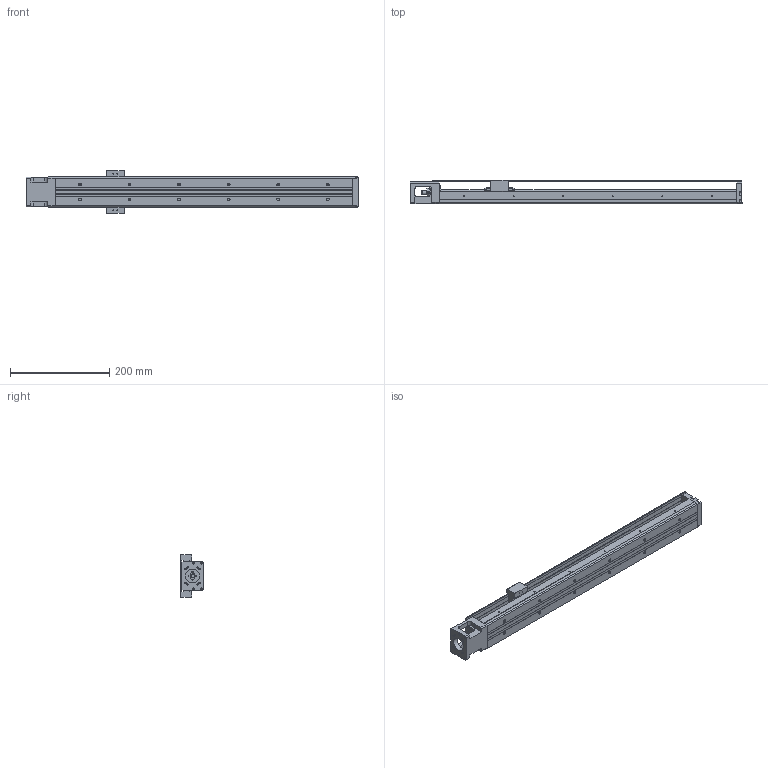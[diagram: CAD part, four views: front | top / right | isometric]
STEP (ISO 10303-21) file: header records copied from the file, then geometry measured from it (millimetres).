
FILE_DESCRIPTION(/* description */ (''),/* implementation_level */ '2;1');
FILE_NAME(/* name */ 'KP33S-600-C-D.stp',/* time_stamp */ '2020-06-04T18:19:33+08:00',/* author */ (''),/* organization */ (''),/* preprocessor_version */ 'ST-DEVELOPER v14',/* originating_system */ 'SIEMENS PLM Software NX 8.0',/* authorisation */ '');
FILE_SCHEMA (('AUTOMOTIVE_DESIGN { 1 0 10303 214 3 1 1 1 }'));
Length unit declared in the file: millimetre
Products named in the file (1): model1
Bounding box: 670 x 47.95 x 86 mm (x, y, z)
Volume: 819237.5 mm3; surface area: 298944.7 mm2
Topology: 8 solids, 18 shells, 802 faces, 2024 edges, 1340 vertices
Faces by surface type: plane 472, cylinder 236, bspline 31, extrusion 25, cone 24, torus 12, revolution 2
Full cylindrical faces by diameter (mm): 1.6 x5, 1.65 x4, 2.15 x10, 2.42 x4, 2.45 x10, 2.5 x20, 3.2 x4, 3.3 x4, 3.4 x4, 3.5 x14, 3.969 x2, 4 x4, 4.001 x2, 4.135 x2, 4.2 x2, 5.5 x12, 6 x4, 7.6 x1, 8 x6, 9.5 x12, 10.72 x6, 11.8 x2, 12 x6, 12.8 x1, 13 x2, 14 x1, 17.38 x6, 21.5 x1, 22 x4, 28 x1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
Entity records: 39641 total; most frequent: CARTESIAN_POINT 17208, DIRECTION 3648, ORIENTED_EDGE 3472, EDGE_CURVE 1736, AXIS2_PLACEMENT_3D 1302, VERTEX_POINT 1246, EDGE_LOOP 1168, VECTOR 1042
